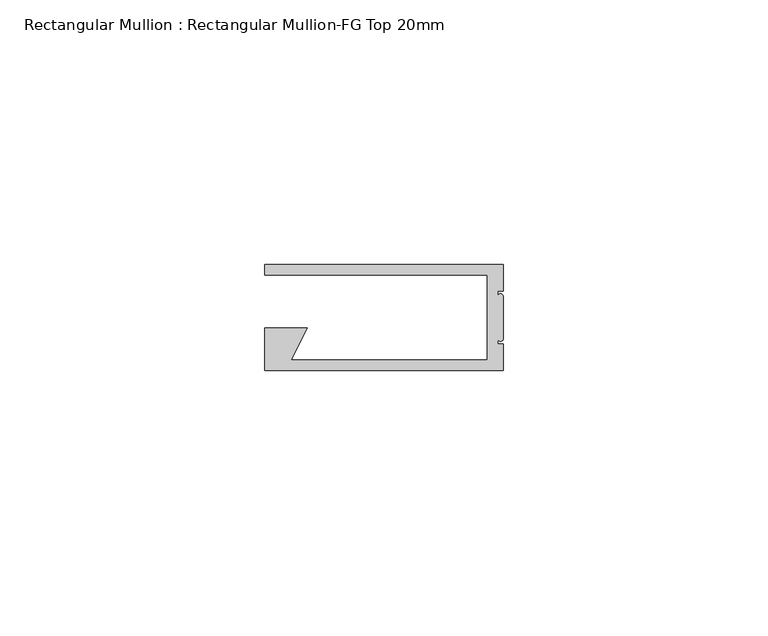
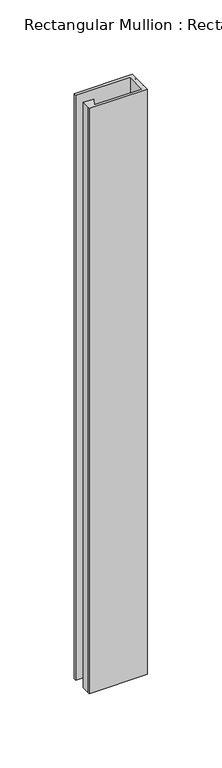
"""IFC4 building model written with IfcOpenShell, lengths in millimetres: member geometry, Rectangular Mullion : Rectangular Mullion-FG Top 20mm."""

from ifc_helpers import new_model, si_unit, frame, origin, place, context, project, spatial, circle_curve, source, transform, mapped, element, save
from ifc_brep_helpers import plane_surface, cylinder_surface, advanced_brep


def rectangular_mullion_rectangular_mullion_fg_top_20mm_3b803832(model_context):
    return source(origin(), model_context, "Body", "AdvancedBrep", [
        advanced_brep(
        [(0.0, -5.0, 0.0), (0.0, 0.0, 0.0), (-45.0, 0.0, 0.0), (-45.0, -2.0, 0.0), (-3.0, -2.0, 0.0), (-3.0, -18.0, 0.0), (-40.0, -18.0, 0.0), (-37.0, -12.0, 0.0), (-45.0, -12.0, 0.0), (-45.0, -18.0, 0.0), (-45.0, -20.0, 0.0), (0.0, -20.0, 0.0), (0.0, -15.0, 0.0), (-1.0, -15.0, 0.0), (-1.0, -14.0, 0.0), (0.0, -14.0, 0.0), (0.0, -6.0, 0.0), (-1.0, -6.0, 0.0), (-1.0, -5.0, 0.0), (0.0, -5.0, -480.0), (-1.0, -5.0, -480.0), (-1.0, -6.0, -480.0), (0.0, -6.0, -480.0), (0.0, -14.0, -480.0), (-1.0, -14.0, -480.0), (-1.0, -15.0, -480.0), (0.0, -15.0, -480.0), (0.0, -20.0, -480.0), (-45.0, -20.0, -480.0), (-45.0, -18.0, -480.0), (-45.0, -12.0, -480.0), (-37.0, -12.0, -480.0), (-40.0, -18.0, -480.0), (-3.0, -18.0, -480.0), (-3.0, -2.0, -480.0), (-45.0, -2.0, -480.0), (-45.0, 0.0, -480.0), (0.0, 0.0, -480.0)],
        [
            (0, 1),
            (1, 2),
            (2, 3),
            (3, 4),
            (4, 5),
            (5, 6),
            (6, 7),
            (7, 8),
            (8, 9),
            (9, 10),
            (10, 11),
            (11, 12),
            (12, 13),
            (13, 14),
            (14, 15, circle_curve(frame((-0.5, -14.0, 0.0), z_axis=(0.0, 0.0, 1.0), x_axis=(1.0, 0.0, 0.0)), 0.5)),
            (15, 16),
            (16, 17, circle_curve(frame((-0.5, -6.0, 0.0), z_axis=(0.0, 0.0, 1.0), x_axis=(1.0, 0.0, 0.0)), 0.5)),
            (17, 18),
            (18, 0),
            (19, 20),
            (20, 21),
            (21, 22, circle_curve(frame((-0.5, -6.0, -480.0), z_axis=(0.0, 0.0, -1.0), x_axis=(1.0, 0.0, 0.0)), 0.5)),
            (22, 23),
            (23, 24, circle_curve(frame((-0.5, -14.0, -480.0), z_axis=(0.0, 0.0, -1.0), x_axis=(1.0, 0.0, 0.0)), 0.5)),
            (24, 25),
            (25, 26),
            (26, 27),
            (27, 28),
            (28, 29),
            (29, 30),
            (30, 31),
            (31, 32),
            (32, 33),
            (33, 34),
            (34, 35),
            (35, 36),
            (36, 37),
            (37, 19),
            (0, 19),
            (37, 1),
            (36, 2),
            (35, 3),
            (34, 4),
            (33, 5),
            (32, 6),
            (31, 7),
            (30, 8),
            (29, 9),
            (28, 10),
            (27, 11),
            (26, 12),
            (25, 13),
            (24, 14),
            (23, 15),
            (22, 16),
            (21, 17),
            (20, 18),
        ],
        [
            plane_surface(frame((0.0, -49.244289, 0.0), z_axis=(0.0, 0.0, 1.0), x_axis=(-1.0, 0.0, 0.0))),
            plane_surface(frame((0.0, -49.244289, -480.0), z_axis=(0.0, 0.0, -1.0), x_axis=(-1.0, 0.0, 0.0))),
            plane_surface(frame((0.0, -5.0, 0.0), z_axis=(1.0, 0.0, 0.0), x_axis=(0.0, 0.0, -1.0))),
            plane_surface(frame((0.0, 0.0, 0.0), z_axis=(0.0, 1.0, 0.0), x_axis=(0.0, 0.0, -1.0))),
            plane_surface(frame((-45.0, 0.0, 0.0), z_axis=(-1.0, 0.0, 0.0), x_axis=(0.0, 0.0, -1.0))),
            plane_surface(frame((-45.0, -2.0, 0.0), z_axis=(0.0, -1.0, 0.0), x_axis=(0.0, 0.0, -1.0))),
            plane_surface(frame((-3.0, -2.0, 0.0), z_axis=(-1.0, 0.0, 0.0), x_axis=(0.0, 0.0, -1.0))),
            plane_surface(frame((-3.0, -18.0, 0.0), z_axis=(0.0, 1.0, 0.0), x_axis=(0.0, 0.0, -1.0))),
            plane_surface(frame((-40.0, -18.0, 0.0), z_axis=(0.8944271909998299, -0.4472135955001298, 0.0), x_axis=(0.0, 0.0, -1.0))),
            plane_surface(frame((-37.0, -12.0, 0.0), z_axis=(0.0, 1.0, 0.0), x_axis=(0.0, 0.0, -1.0))),
            plane_surface(frame((-45.0, -12.0, 0.0), z_axis=(-1.0, 0.0, 0.0), x_axis=(0.0, 0.0, -1.0))),
            plane_surface(frame((-45.0, -18.0, 0.0), z_axis=(-1.0, 0.0, 0.0), x_axis=(0.0, 0.0, -1.0))),
            plane_surface(frame((-45.0, -20.0, 0.0), z_axis=(0.0, -1.0, 0.0), x_axis=(0.0, 0.0, -1.0))),
            plane_surface(frame((0.0, -20.0, 0.0), z_axis=(1.0, 0.0, 0.0), x_axis=(0.0, 0.0, -1.0))),
            plane_surface(frame((0.0, -15.0, 0.0), z_axis=(0.0, 1.0, 0.0), x_axis=(0.0, 0.0, -1.0))),
            plane_surface(frame((-1.0, -15.0, 0.0), z_axis=(1.0, 0.0, 0.0), x_axis=(0.0, 0.0, -1.0))),
            cylinder_surface(frame((-0.5, -14.0, 0.0), z_axis=(0.0, 0.0, 1.0), x_axis=(1.0, 0.0, 0.0)), 0.5),
            plane_surface(frame((0.0, -14.0, 0.0), z_axis=(1.0, 0.0, 0.0), x_axis=(0.0, 0.0, -1.0))),
            cylinder_surface(frame((-0.5, -6.0, 0.0), z_axis=(0.0, 0.0, 1.0), x_axis=(1.0, 0.0, 0.0)), 0.5),
            plane_surface(frame((-1.0, -6.0, 0.0), z_axis=(1.0, 0.0, 0.0), x_axis=(0.0, 0.0, -1.0))),
            plane_surface(frame((-1.0, -5.0, 0.0), z_axis=(0.0, -1.0, 0.0), x_axis=(0.0, 0.0, -1.0))),
        ],
        [
            (0, [[1, 2, 3, 4, 5, 6, 7, 8, 9, 10, 11, 12, 13, 14, 15, 16, 17, 18, 19]]),
            (1, [[20, 21, 22, 23, 24, 25, 26, 27, 28, 29, 30, 31, 32, 33, 34, 35, 36, 37, 38]]),
            (2, [[-1, 39, -38, 40]]),
            (3, [[-2, -40, -37, 41]]),
            (4, [[-3, -41, -36, 42]]),
            (5, [[-4, -42, -35, 43]]),
            (6, [[-5, -43, -34, 44]]),
            (7, [[-6, -44, -33, 45]]),
            (8, [[-7, -45, -32, 46]]),
            (9, [[-8, -46, -31, 47]]),
            (10, [[-9, -47, -30, 48]]),
            (11, [[-10, -48, -29, 49]]),
            (12, [[-11, -49, -28, 50]]),
            (13, [[-12, -50, -27, 51]]),
            (14, [[-13, -51, -26, 52]]),
            (15, [[-14, -52, -25, 53]]),
            (16, [[-15, -53, -24, 54]]),
            (17, [[-16, -54, -23, 55]]),
            (18, [[-17, -55, -22, 56]]),
            (19, [[-18, -56, -21, 57]]),
            (20, [[-19, -57, -20, -39]]),
        ],
    ),
    ])


if __name__ == "__main__":
    model = new_model("IFC4")
    model_context = context("Model", 3, world=origin())
    ifc_project = project(units=[si_unit("LENGTHUNIT", "METRE", prefix="MILLI")], contexts=[model_context])
    site = spatial("IfcSite", under=ifc_project)
    building = spatial("IfcBuilding", under=site)
    placement = place(None, origin())
    rectangular_mullion_rectangular_mullion_fg_top_20mm_shape = rectangular_mullion_rectangular_mullion_fg_top_20mm_3b803832(model_context)
    element("IfcMember", 1, ObjectType="Rectangular Mullion : Rectangular Mullion-FG Top 20mm", at=placement, inside=building, context=model_context, shape_type="MappedRepresentation", body=[
        mapped(rectangular_mullion_rectangular_mullion_fg_top_20mm_shape, transform((0.0, 0.0, 0.0), x_axis=(1.0, 0.0, 0.0), y_axis=(0.0, 1.0, 0.0), z_axis=(0.0, 0.0, 1.0))),
    ])
    save(model, "model.ifc")
